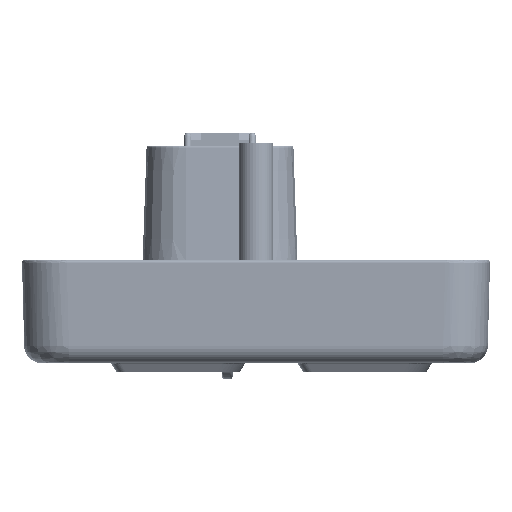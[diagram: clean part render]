
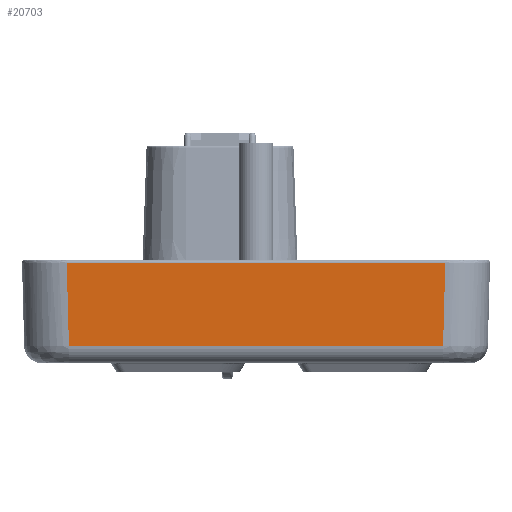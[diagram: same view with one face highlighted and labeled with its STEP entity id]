
A CAD part, left-side view. The second image highlights one B-rep face of the part: STEP entity #20703.
In plain terms, the highlighted planar face has unit normal (-1, 0, -0.026) as drawn and (1, 0, 0.026) by its records, which use the part's own axes.
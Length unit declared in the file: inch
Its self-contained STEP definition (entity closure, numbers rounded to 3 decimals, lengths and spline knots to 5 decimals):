
#20703 = ADVANCED_FACE ( 'NONE', ( #300932 ), #182024, .T. ) ;
#25732 = CARTESIAN_POINT ( 'NONE',  ( 3.31247, 1.04505, 0.49322 ) ) ;
#33664 = VECTOR ( 'NONE', #300292, 39.37008 ) ;
#35278 = LINE ( 'NONE', #63006, #277543 ) ;
#39988 = DIRECTION ( 'NONE',  ( 1., 0., 0.026 ) ) ;
#41429 = LINE ( 'NONE', #276142, #151326 ) ;
#63006 = CARTESIAN_POINT ( 'NONE',  ( 3.32517, -1.05776, 0.00806 ) ) ;
#73565 = CARTESIAN_POINT ( 'NONE',  ( 3.32461, -1.3075, 0.02965 ) ) ;
#77487 = VERTEX_POINT ( 'NONE', #211996 ) ;
#84600 = ORIENTED_EDGE ( 'NONE', *, *, #177170, .T. ) ;
#84695 = DIRECTION ( 'NONE',  ( -0.026, -0.026, 0.999 ) ) ;
#91748 = VERTEX_POINT ( 'NONE', #112902 ) ;
#104298 = ORIENTED_EDGE ( 'NONE', *, *, #152582, .T. ) ;
#112902 = CARTESIAN_POINT ( 'NONE',  ( 3.31247, -1.04505, 0.49322 ) ) ;
#122858 = VERTEX_POINT ( 'NONE', #25732 ) ;
#126296 = EDGE_LOOP ( 'NONE', ( #104298, #237313, #145558, #84600 ) ) ;
#145558 = ORIENTED_EDGE ( 'NONE', *, *, #239335, .T. ) ;
#151326 = VECTOR ( 'NONE', #84695, 39.37008 ) ;
#152582 = EDGE_CURVE ( 'NONE', #91748, #77487, #35278, .T. ) ;
#157245 = DIRECTION ( 'NONE',  ( 0.026, -0.026, -0.999 ) ) ;
#177170 = EDGE_CURVE ( 'NONE', #122858, #91748, #232326, .T. ) ;
#177435 = CARTESIAN_POINT ( 'NONE',  ( 3.325, -1.3075, 0.0146 ) ) ;
#182024 = PLANE ( 'NONE',  #276846 ) ;
#183542 = DIRECTION ( 'NONE',  ( 0.026, 0., -1. ) ) ;
#185734 = VECTOR ( 'NONE', #238798, 39.37008 ) ;
#206089 = CARTESIAN_POINT ( 'NONE',  ( 3.31247, -1.0425, 0.49322 ) ) ;
#211996 = CARTESIAN_POINT ( 'NONE',  ( 3.3246, -1.05718, 0.02993 ) ) ;
#231610 = CARTESIAN_POINT ( 'NONE',  ( 3.32461, 1.05719, 0.02965 ) ) ;
#232326 = LINE ( 'NONE', #206089, #33664 ) ;
#237313 = ORIENTED_EDGE ( 'NONE', *, *, #261374, .T. ) ;
#238798 = DIRECTION ( 'NONE',  ( 0., 1., 0. ) ) ;
#239335 = EDGE_CURVE ( 'NONE', #282340, #122858, #41429, .T. ) ;
#261374 = EDGE_CURVE ( 'NONE', #77487, #282340, #285114, .T. ) ;
#276142 = CARTESIAN_POINT ( 'NONE',  ( 3.32338, 1.05597, 0.07645 ) ) ;
#276846 = AXIS2_PLACEMENT_3D ( 'NONE', #177435, #39988, #183542 ) ;
#277543 = VECTOR ( 'NONE', #157245, 39.37008 ) ;
#282340 = VERTEX_POINT ( 'NONE', #231610 ) ;
#285114 = LINE ( 'NONE', #73565, #185734 ) ;
#300292 = DIRECTION ( 'NONE',  ( 0., -1., 0. ) ) ;
#300932 = FACE_OUTER_BOUND ( 'NONE', #126296, .T. ) ;
